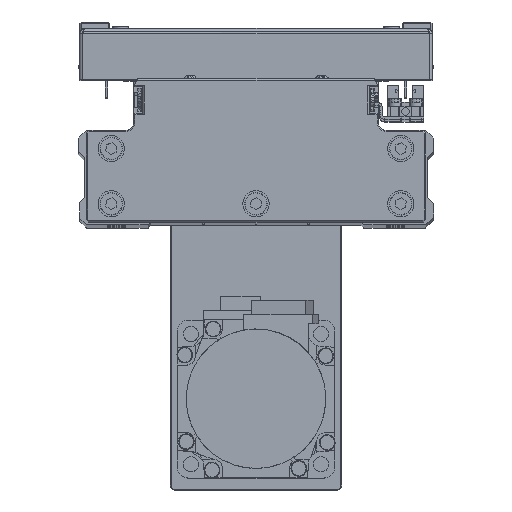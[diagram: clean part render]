
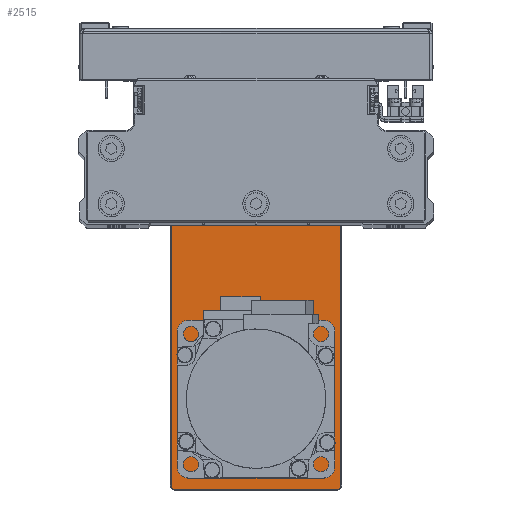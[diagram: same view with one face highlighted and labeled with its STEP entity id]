
A CAD part, top view. The second image highlights one B-rep face of the part: STEP entity #2515.
In plain terms, the highlighted planar face has unit normal (0, 0, 1) as drawn and (0, 1, 0) by its records, which use the part's own axes.
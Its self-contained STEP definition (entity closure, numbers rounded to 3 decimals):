
#274 = DIRECTION ( 'NONE',  ( 0., 0., -1. ) ) ;
#2260 = AXIS2_PLACEMENT_3D ( 'NONE', #36327, #5886, #19453 ) ;
#2515 = ADVANCED_FACE ( 'NONE', ( #33775, #3326, #16906, #30460, #10336 ), #13556, .F. ) ;
#2647 = DIRECTION ( 'NONE',  ( 0., 1., 0. ) ) ;
#2874 = EDGE_CURVE ( 'NONE', #15257, #10824, #3449, .T. ) ;
#3326 = FACE_BOUND ( 'NONE', #23594, .T. ) ;
#3449 = LINE ( 'NONE', #17022, #41130 ) ;
#3651 = EDGE_CURVE ( 'NONE', #13122, #33561, #11395, .T. ) ;
#3988 = CARTESIAN_POINT ( 'NONE',  ( 84.7, 6., -31. ) ) ;
#4048 = VECTOR ( 'NONE', #35611, 1000. ) ;
#4352 = EDGE_CURVE ( 'NONE', #12292, #5623, #32724, .T. ) ;
#4642 = EDGE_CURVE ( 'NONE', #10824, #34365, #8613, .T. ) ;
#4776 = DIRECTION ( 'NONE',  ( 0., 0., 1. ) ) ;
#5342 = DIRECTION ( 'NONE',  ( 0., 1., 0. ) ) ;
#5424 = AXIS2_PLACEMENT_3D ( 'NONE', #24910, #38456, #8016 ) ;
#5623 = VERTEX_POINT ( 'NONE', #24844 ) ;
#5886 = DIRECTION ( 'NONE',  ( 0., 1., 0. ) ) ;
#7017 = DIRECTION ( 'NONE',  ( 1., 0., 0. ) ) ;
#7444 = EDGE_CURVE ( 'NONE', #25954, #43049, #41651, .T. ) ;
#7468 = CARTESIAN_POINT ( 'NONE',  ( 75.992, 6., -8.551 ) ) ;
#7752 = CARTESIAN_POINT ( 'NONE',  ( 52.5, 6., 0. ) ) ;
#8016 = DIRECTION ( 'NONE',  ( 0., 0., 1. ) ) ;
#8075 = EDGE_CURVE ( 'NONE', #19517, #13230, #15149, .T. ) ;
#8502 = LINE ( 'NONE', #22063, #4048 ) ;
#8574 = VERTEX_POINT ( 'NONE', #23518 ) ;
#8613 = CIRCLE ( 'NONE', #33458, 1.2 ) ;
#9787 = AXIS2_PLACEMENT_3D ( 'NONE', #33102, #2647, #16219 ) ;
#9800 = CARTESIAN_POINT ( 'NONE',  ( -84.7, 6., 31. ) ) ;
#9955 = EDGE_LOOP ( 'NONE', ( #43524, #34691 ) ) ;
#10172 = ORIENTED_EDGE ( 'NONE', *, *, #4642, .T. ) ;
#10228 = DIRECTION ( 'NONE',  ( 0., 0., -1. ) ) ;
#10336 = FACE_BOUND ( 'NONE', #24697, .T. ) ;
#10504 = VERTEX_POINT ( 'NONE', #16963 ) ;
#10824 = VERTEX_POINT ( 'NONE', #9800 ) ;
#11239 = CARTESIAN_POINT ( 'NONE',  ( 83.5, 6., -32.2 ) ) ;
#11395 = CIRCLE ( 'NONE', #36204, 15. ) ;
#11758 = AXIS2_PLACEMENT_3D ( 'NONE', #13028, #26590, #40138 ) ;
#11985 = EDGE_LOOP ( 'NONE', ( #17966, #26178, #36447, #20269, #10172, #36083, #24299, #41076 ) ) ;
#12004 = ORIENTED_EDGE ( 'NONE', *, *, #41068, .T. ) ;
#12202 = CARTESIAN_POINT ( 'NONE',  ( 83.5, 6., 32.2 ) ) ;
#12292 = VERTEX_POINT ( 'NONE', #29521 ) ;
#12531 = CARTESIAN_POINT ( 'NONE',  ( 84.7, 6., 31. ) ) ;
#13028 = CARTESIAN_POINT ( 'NONE',  ( 61.051, 6., 23.492 ) ) ;
#13122 = VERTEX_POINT ( 'NONE', #16484 ) ;
#13230 = VERTEX_POINT ( 'NONE', #3988 ) ;
#13445 = CARTESIAN_POINT ( 'NONE',  ( 52.5, 6., 0. ) ) ;
#13556 = PLANE ( 'NONE',  #26803 ) ;
#13568 = AXIS2_PLACEMENT_3D ( 'NONE', #21670, #35212, #4776 ) ;
#14236 = CARTESIAN_POINT ( 'NONE',  ( -83.5, 6., -31. ) ) ;
#15149 = LINE ( 'NONE', #28704, #43094 ) ;
#15257 = VERTEX_POINT ( 'NONE', #42755 ) ;
#16030 = CARTESIAN_POINT ( 'NONE',  ( -50.5, 6., 0. ) ) ;
#16219 = DIRECTION ( 'NONE',  ( 0., 0., -1. ) ) ;
#16394 = AXIS2_PLACEMENT_3D ( 'NONE', #14236, #27795, #41329 ) ;
#16484 = CARTESIAN_POINT ( 'NONE',  ( -50.5, 6., 15. ) ) ;
#16906 = FACE_BOUND ( 'NONE', #27384, .T. ) ;
#16963 = CARTESIAN_POINT ( 'NONE',  ( 61.051, 6., 21.967 ) ) ;
#17022 = CARTESIAN_POINT ( 'NONE',  ( -84.7, 6., 0. ) ) ;
#17192 = CARTESIAN_POINT ( 'NONE',  ( -83.5, 6., 31. ) ) ;
#17210 = EDGE_CURVE ( 'NONE', #37480, #19517, #27208, .T. ) ;
#17261 = ORIENTED_EDGE ( 'NONE', *, *, #39353, .F. ) ;
#17966 = ORIENTED_EDGE ( 'NONE', *, *, #40502, .T. ) ;
#18442 = EDGE_CURVE ( 'NONE', #8574, #15257, #35529, .T. ) ;
#18822 = CARTESIAN_POINT ( 'NONE',  ( -50.5, 6., -15. ) ) ;
#18904 = DIRECTION ( 'NONE',  ( 0., 0., -1. ) ) ;
#19043 = CIRCLE ( 'NONE', #43863, 10.3 ) ;
#19453 = DIRECTION ( 'NONE',  ( 0., 0., 1. ) ) ;
#19517 = VERTEX_POINT ( 'NONE', #12531 ) ;
#19653 = AXIS2_PLACEMENT_3D ( 'NONE', #7468, #21027, #34564 ) ;
#20269 = ORIENTED_EDGE ( 'NONE', *, *, #2874, .T. ) ;
#20515 = VERTEX_POINT ( 'NONE', #41233 ) ;
#21027 = DIRECTION ( 'NONE',  ( 0., 1., 0. ) ) ;
#21311 = DIRECTION ( 'NONE',  ( 0., -1., 0. ) ) ;
#21451 = CIRCLE ( 'NONE', #2260, 1.525 ) ;
#21670 = CARTESIAN_POINT ( 'NONE',  ( 75.992, 6., -8.551 ) ) ;
#22063 = CARTESIAN_POINT ( 'NONE',  ( 0., 6., -32.2 ) ) ;
#22491 = AXIS2_PLACEMENT_3D ( 'NONE', #13445, #27009, #40555 ) ;
#22619 = ORIENTED_EDGE ( 'NONE', *, *, #3651, .F. ) ;
#23518 = CARTESIAN_POINT ( 'NONE',  ( -83.5, 6., -32.2 ) ) ;
#23594 = EDGE_LOOP ( 'NONE', ( #33468, #17261 ) ) ;
#23914 = LINE ( 'NONE', #37453, #26664 ) ;
#24102 = CARTESIAN_POINT ( 'NONE',  ( 52.5, 6., 10.3 ) ) ;
#24116 = ORIENTED_EDGE ( 'NONE', *, *, #39063, .F. ) ;
#24148 = CARTESIAN_POINT ( 'NONE',  ( 52.5, 6., -10.3 ) ) ;
#24299 = ORIENTED_EDGE ( 'NONE', *, *, #17210, .T. ) ;
#24598 = CIRCLE ( 'NONE', #5424, 15. ) ;
#24697 = EDGE_LOOP ( 'NONE', ( #22619, #24116 ) ) ;
#24827 = AXIS2_PLACEMENT_3D ( 'NONE', #35764, #5342, #18904 ) ;
#24844 = CARTESIAN_POINT ( 'NONE',  ( 75.992, 6., -10.076 ) ) ;
#24910 = CARTESIAN_POINT ( 'NONE',  ( -50.5, 6., 0. ) ) ;
#25954 = VERTEX_POINT ( 'NONE', #24148 ) ;
#26158 = EDGE_CURVE ( 'NONE', #10504, #20515, #21451, .T. ) ;
#26178 = ORIENTED_EDGE ( 'NONE', *, *, #39952, .T. ) ;
#26590 = DIRECTION ( 'NONE',  ( 0., 1., 0. ) ) ;
#26664 = VECTOR ( 'NONE', #7017, 1000. ) ;
#26803 = AXIS2_PLACEMENT_3D ( 'NONE', #27126, #40664, #10228 ) ;
#27009 = DIRECTION ( 'NONE',  ( 0., -1., 0. ) ) ;
#27126 = CARTESIAN_POINT ( 'NONE',  ( 0., 6., 0. ) ) ;
#27208 = CIRCLE ( 'NONE', #24827, 1.2 ) ;
#27384 = EDGE_LOOP ( 'NONE', ( #12004, #31455 ) ) ;
#27795 = DIRECTION ( 'NONE',  ( 0., 1., 0. ) ) ;
#28704 = CARTESIAN_POINT ( 'NONE',  ( 84.7, 6., 0. ) ) ;
#28937 = CIRCLE ( 'NONE', #9787, 1.2 ) ;
#29521 = CARTESIAN_POINT ( 'NONE',  ( 75.992, 6., -7.026 ) ) ;
#29573 = DIRECTION ( 'NONE',  ( 0., 1., 0. ) ) ;
#30460 = FACE_OUTER_BOUND ( 'NONE', #11985, .T. ) ;
#30585 = DIRECTION ( 'NONE',  ( 0., 0., 1. ) ) ;
#30753 = DIRECTION ( 'NONE',  ( 0., 1., 0. ) ) ;
#30921 = CIRCLE ( 'NONE', #11758, 1.525 ) ;
#31455 = ORIENTED_EDGE ( 'NONE', *, *, #7444, .T. ) ;
#32724 = CIRCLE ( 'NONE', #13568, 1.525 ) ;
#33102 = CARTESIAN_POINT ( 'NONE',  ( 83.5, 6., -31. ) ) ;
#33458 = AXIS2_PLACEMENT_3D ( 'NONE', #17192, #30753, #274 ) ;
#33468 = ORIENTED_EDGE ( 'NONE', *, *, #4352, .F. ) ;
#33561 = VERTEX_POINT ( 'NONE', #18822 ) ;
#33775 = FACE_BOUND ( 'NONE', #9955, .T. ) ;
#34365 = VERTEX_POINT ( 'NONE', #39082 ) ;
#34564 = DIRECTION ( 'NONE',  ( 0., 0., 1. ) ) ;
#34691 = ORIENTED_EDGE ( 'NONE', *, *, #26158, .F. ) ;
#34856 = DIRECTION ( 'NONE',  ( 0., 0., -1. ) ) ;
#35212 = DIRECTION ( 'NONE',  ( 0., 1., 0. ) ) ;
#35529 = CIRCLE ( 'NONE', #16394, 1.2 ) ;
#35611 = DIRECTION ( 'NONE',  ( -1., 0., 0. ) ) ;
#35764 = CARTESIAN_POINT ( 'NONE',  ( 83.5, 6., 31. ) ) ;
#36083 = ORIENTED_EDGE ( 'NONE', *, *, #36332, .T. ) ;
#36204 = AXIS2_PLACEMENT_3D ( 'NONE', #16030, #29573, #43108 ) ;
#36211 = EDGE_CURVE ( 'NONE', #20515, #10504, #30921, .T. ) ;
#36327 = CARTESIAN_POINT ( 'NONE',  ( 61.051, 6., 23.492 ) ) ;
#36332 = EDGE_CURVE ( 'NONE', #34365, #37480, #23914, .T. ) ;
#36447 = ORIENTED_EDGE ( 'NONE', *, *, #18442, .T. ) ;
#37453 = CARTESIAN_POINT ( 'NONE',  ( 0., 6., 32.2 ) ) ;
#37480 = VERTEX_POINT ( 'NONE', #12202 ) ;
#38201 = VERTEX_POINT ( 'NONE', #11239 ) ;
#38456 = DIRECTION ( 'NONE',  ( 0., 1., 0. ) ) ;
#38800 = CIRCLE ( 'NONE', #19653, 1.525 ) ;
#39063 = EDGE_CURVE ( 'NONE', #33561, #13122, #24598, .T. ) ;
#39082 = CARTESIAN_POINT ( 'NONE',  ( -83.5, 6., 32.2 ) ) ;
#39353 = EDGE_CURVE ( 'NONE', #5623, #12292, #38800, .T. ) ;
#39952 = EDGE_CURVE ( 'NONE', #38201, #8574, #8502, .T. ) ;
#40138 = DIRECTION ( 'NONE',  ( 0., 0., 1. ) ) ;
#40502 = EDGE_CURVE ( 'NONE', #13230, #38201, #28937, .T. ) ;
#40555 = DIRECTION ( 'NONE',  ( 0., 0., -1. ) ) ;
#40664 = DIRECTION ( 'NONE',  ( 0., -1., 0. ) ) ;
#41068 = EDGE_CURVE ( 'NONE', #43049, #25954, #19043, .T. ) ;
#41076 = ORIENTED_EDGE ( 'NONE', *, *, #8075, .T. ) ;
#41130 = VECTOR ( 'NONE', #30585, 1000. ) ;
#41233 = CARTESIAN_POINT ( 'NONE',  ( 61.051, 6., 25.017 ) ) ;
#41329 = DIRECTION ( 'NONE',  ( 0., 0., -1. ) ) ;
#41651 = CIRCLE ( 'NONE', #22491, 10.3 ) ;
#42237 = DIRECTION ( 'NONE',  ( 0., 0., -1. ) ) ;
#42755 = CARTESIAN_POINT ( 'NONE',  ( -84.7, 6., -31. ) ) ;
#43049 = VERTEX_POINT ( 'NONE', #24102 ) ;
#43094 = VECTOR ( 'NONE', #42237, 1000. ) ;
#43108 = DIRECTION ( 'NONE',  ( 0., 0., 1. ) ) ;
#43524 = ORIENTED_EDGE ( 'NONE', *, *, #36211, .F. ) ;
#43863 = AXIS2_PLACEMENT_3D ( 'NONE', #7752, #21311, #34856 ) ;
